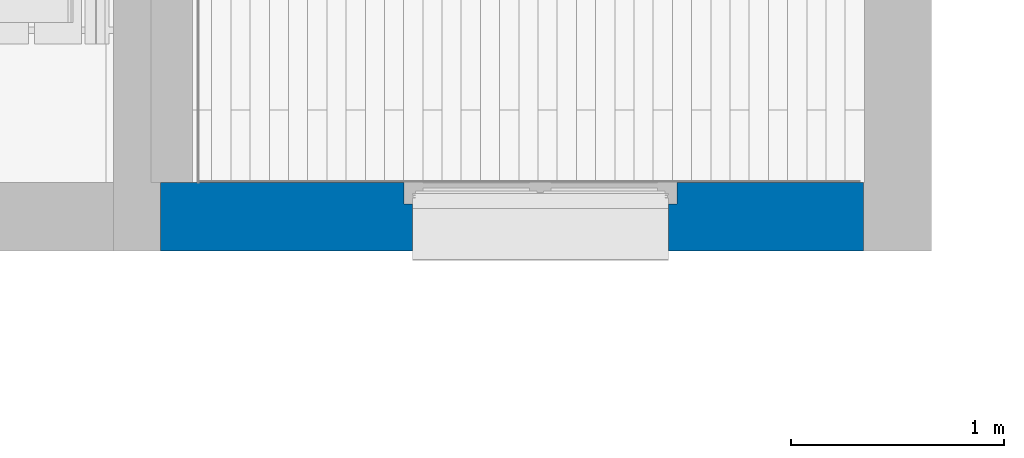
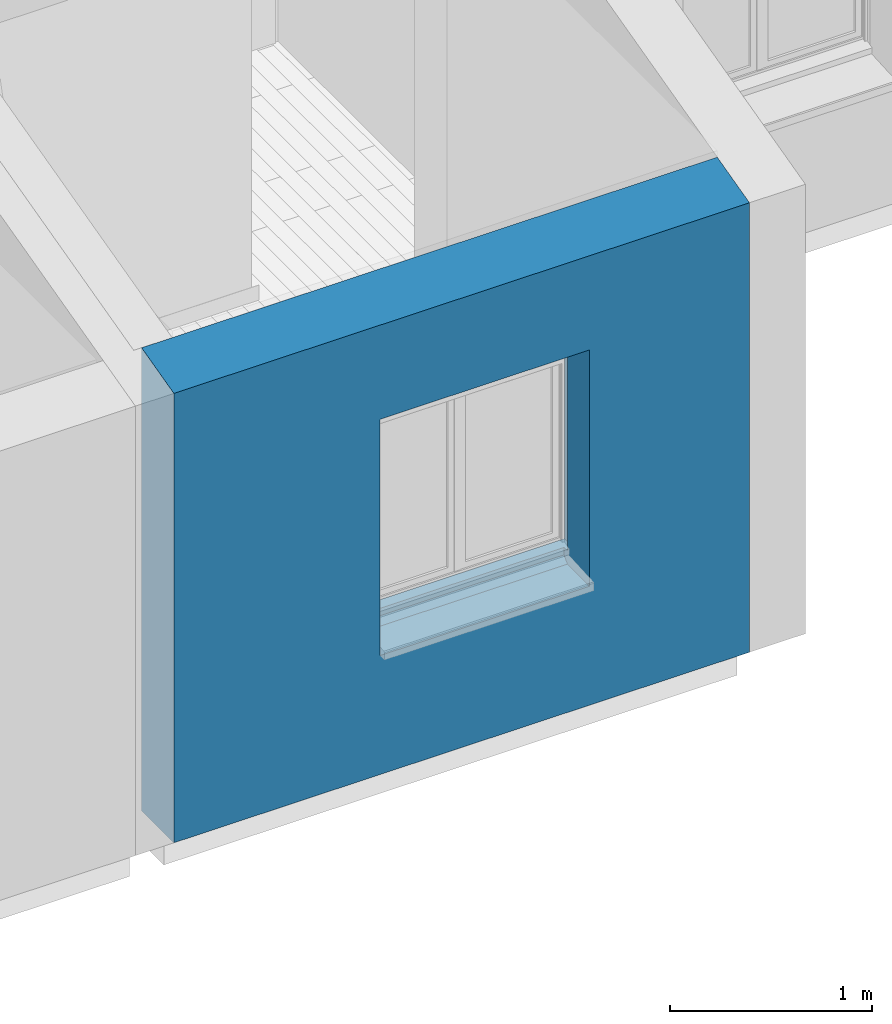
# One storey, part 26 of 50: 1 wall, 1 opening.
"""IFC2X3 building model written with IfcOpenShell, lengths in metres."""

from ifc_helpers import new_model, entity, si_unit, converted_unit, derived_unit, direction, frame, frame_2d, origin, place, context, subcontext, project, spatial, polyline, rectangle, extrude, clip, bounded_halfspace, faceted_brep, material, layer, layer_set, layer_usage, type_object, element, save


model = new_model("IFC2X3")

# Units and contexts
model_context = context("Model", 3, precision=1e-05, world=origin(), true_north=direction((6.12303176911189e-17, 1.0)))
context_of_model = context(None, 3, precision=1e-05, world=origin(), true_north=direction((6.12303176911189e-17, 1.0)))
body_context = subcontext(model_context, "Body", "Model", "MODEL_VIEW")
ifc_project = project(units=[si_unit("LENGTHUNIT", "METRE"), si_unit("AREAUNIT", "SQUARE_METRE"), si_unit("VOLUMEUNIT", "CUBIC_METRE"), converted_unit("PLANEANGLEUNIT", "DEGREE", entity("IfcRatioMeasure", 0.0174532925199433), si_unit("PLANEANGLEUNIT", "RADIAN"), dimensions=[0, 0, 0, 0, 0, 0, 0]), si_unit("MASSUNIT", "GRAM", prefix="KILO"), si_unit("TIMEUNIT", "SECOND"), si_unit("FREQUENCYUNIT", "HERTZ"), si_unit("THERMODYNAMICTEMPERATUREUNIT", "DEGREE_CELSIUS"), derived_unit("THERMALTRANSMITTANCEUNIT", [(si_unit("MASSUNIT", "GRAM", prefix="KILO"), 1), (si_unit("THERMODYNAMICTEMPERATUREUNIT", "KELVIN"), -1), (si_unit("TIMEUNIT", "SECOND"), -3)]), derived_unit("VOLUMETRICFLOWRATEUNIT", [(si_unit("LENGTHUNIT", "METRE"), 3), (si_unit("TIMEUNIT", "SECOND"), -1)]), si_unit("ELECTRICCURRENTUNIT", "AMPERE"), si_unit("ELECTRICVOLTAGEUNIT", "VOLT"), si_unit("POWERUNIT", "WATT"), si_unit("FORCEUNIT", "NEWTON", prefix="KILO"), si_unit("ILLUMINANCEUNIT", "LUX"), si_unit("LUMINOUSFLUXUNIT", "LUMEN"), si_unit("LUMINOUSINTENSITYUNIT", "CANDELA"), si_unit("PRESSUREUNIT", "PASCAL")], contexts=[model_context, context_of_model])

# Site, building, storey
site_placement = place(None, origin())
site = spatial("IfcSite", under=ifc_project, at=site_placement, Name="Surface", CompositionType="ELEMENT")
building_placement = place(site_placement, origin())
building = spatial("IfcBuilding", under=site, at=building_placement, CompositionType="ELEMENT")
storey_placement = place(building_placement, frame((0.0, 0.0, 2.82)))
storey = spatial("IfcBuildingStorey", under=building, at=storey_placement, Name="ETAGE", CompositionType="ELEMENT", Elevation=2.82)

# Wall, opening
ifc_material_1 = material(Name="Enduit  gris")
ifc_layer_1 = layer(ifc_material_1, 0.02)
ifc_material_2 = material(Name="Parpaing")
ifc_layer_2 = layer(ifc_material_2, 0.2)
ifc_material_3 = material(Name="Isolant")
ifc_layer_3 = layer(ifc_material_3, 0.1)
ifc_layer_set = layer_set([ifc_layer_1, ifc_layer_2, ifc_layer_3], Name="Mur de base:Ext. Parpaing 20 + Isolant 10 enduit gris")
ifc_layer_usage = layer_usage(ifc_layer_set, "AXIS2", "NEGATIVE", 0.16)
wall_type = type_object("IfcWallType", Name="Mur de base:Ext. Parpaing 20 + Isolant 10 enduit gris", PredefinedType="STANDARD", material=ifc_layer_set)
wall_placement = place(storey_placement, frame((87.0467857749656, 81.0875239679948, 0.0), z_axis=(0.0, 0.0, 1.0), x_axis=(-1.0, 0.0, 0.0)))
wall = element("IfcWallStandardCase", 1, at=wall_placement, inside=storey, type_object=wall_type, material=ifc_layer_usage, Name="Mur de base:Ext. Parpaing 20 + Isolant 10 enduit gris", ObjectType="Mur de base:Ext. Parpaing 20 + Isolant 10 enduit gris", context=body_context, shape_type="Clipping", body=[
    clip(extrude(rectangle(XDim=3.29538340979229, YDim=0.319999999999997, at=frame_2d((1.64769170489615, 0.0), x_axis=(-1.0, 0.0))), origin(), (0.0, 0.0, 1.0), 2.8022236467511), bounded_halfspace(frame((0.0, -0.159999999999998, 2.8022236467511), z_axis=(0.0, 0.248864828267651, 0.968538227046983), x_axis=(-1.0, 0.0, 0.0)), False, frame((0.0, -0.159999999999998, 2.8022236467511)), polyline([(0.0, 0.0), (3.12038340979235, 0.0), (3.29538340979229, 0.0), (3.29538340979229, 0.319999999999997), (0.0, 0.319999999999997), (0.0, 0.0)]))),
])
opening_placement = place(wall_placement, frame((2.16499999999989, 0.499999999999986, 0.719999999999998), z_axis=(0.0, 0.0, 1.0), x_axis=(-1.0, 0.0, 0.0)))
element("IfcOpeningElement", 2, at=opening_placement, cuts=wall, Name="Mur de base:Ext. Parpaing 20 + Isolant 10 enduit gris", ObjectType="Opening", context=body_context, shape_type="Brep", body=[
    faceted_brep([(0.0499999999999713, 1.0, 1.43), (1.24999999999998, 1.0, 1.43), (1.24999999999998, 1.0, 0.0800000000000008), (0.0499999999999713, 1.0, 0.0800000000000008), (0.0499999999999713, 0.0, 1.43), (0.0499999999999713, 0.0, 0.0800000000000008), (1.24999999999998, 0.0, 0.0800000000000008), (1.24999999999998, 0.0, 1.43), (0.0499999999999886, 0.672999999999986, 1.43), (1.24999999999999, 0.672999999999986, 1.43), (1.24999999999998, 0.673000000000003, 0.0800000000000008), (1.28999999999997, 0.673000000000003, 0.0800000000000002), (1.28999999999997, 0.559999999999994, 0.0800000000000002), (1.24999999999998, 0.559999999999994, 0.0800000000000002), (1.24999999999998, 0.594999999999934, 0.0800000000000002), (0.0499999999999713, 0.594999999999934, 0.0800000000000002), (0.0499999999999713, 0.559999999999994, 0.0800000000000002), (0.0099999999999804, 0.559999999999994, 0.0800000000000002), (0.0099999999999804, 0.673000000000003, 0.0800000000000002), (0.0499999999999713, 0.673000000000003, 0.0800000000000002), (0.0099999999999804, 0.672999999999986, 1.47), (1.28999999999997, 0.672999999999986, 1.47), (1.28999999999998, 0.559999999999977, 1.47), (1.29999999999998, 0.559999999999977, 1.47), (1.29999999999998, 0.559999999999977, 1.65), (0.0, 0.559999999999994, 1.65), (0.0, 0.559999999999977, 1.47), (0.0099999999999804, 0.559999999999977, 1.47), (0.0499999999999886, 0.559999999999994, 1.43), (1.24999999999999, 0.559999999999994, 1.43), (1.29999999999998, 0.692999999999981, 1.65), (1.29999999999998, 0.692999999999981, 1.47), (0.0, 0.692999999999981, 1.65), (0.0, 0.692999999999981, 1.47), (1.24999999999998, 0.559999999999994, 0.0), (0.0499999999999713, 0.559999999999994, 0.0), (0.0499999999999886, 0.594999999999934, 0.0349999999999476), (1.24999999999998, 0.594999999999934, 0.0349999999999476), (1.24999999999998, 0.294999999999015, 0.0800000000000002), (0.0499999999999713, 0.294999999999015, 0.0800000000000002), (0.0499999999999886, 0.294999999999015, 0.0), (1.24999999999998, 0.294999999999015, 0.0)], [[[0, 1, 2, 3]], [[4, 5, 6, 7]], [[0, 8, 9, 1]], [[1, 9, 10, 2]], [[2, 10, 11, 12, 13, 14, 15, 16, 17, 18, 19, 3]], [[3, 19, 8, 0]], [[10, 9, 8, 19, 18, 20, 21, 11]], [[11, 21, 22, 12]], [[12, 22, 23, 24, 25, 26, 27, 17, 16, 28, 29, 13]], [[18, 17, 27, 20]], [[30, 24, 23, 31]], [[32, 33, 26, 25]], [[30, 32, 25, 24]], [[23, 22, 21, 20, 27, 26, 33, 31]], [[31, 33, 32, 30]], [[34, 35, 36, 37]], [[37, 36, 15, 14]], [[38, 39, 40, 41]], [[41, 40, 35, 34]], [[4, 28, 16, 15, 36, 35, 40, 39, 5]], [[5, 39, 38, 6]], [[6, 38, 41, 34, 37, 14, 13, 29, 7]], [[7, 29, 28, 4]]]),
])

save(model, "model.ifc")
